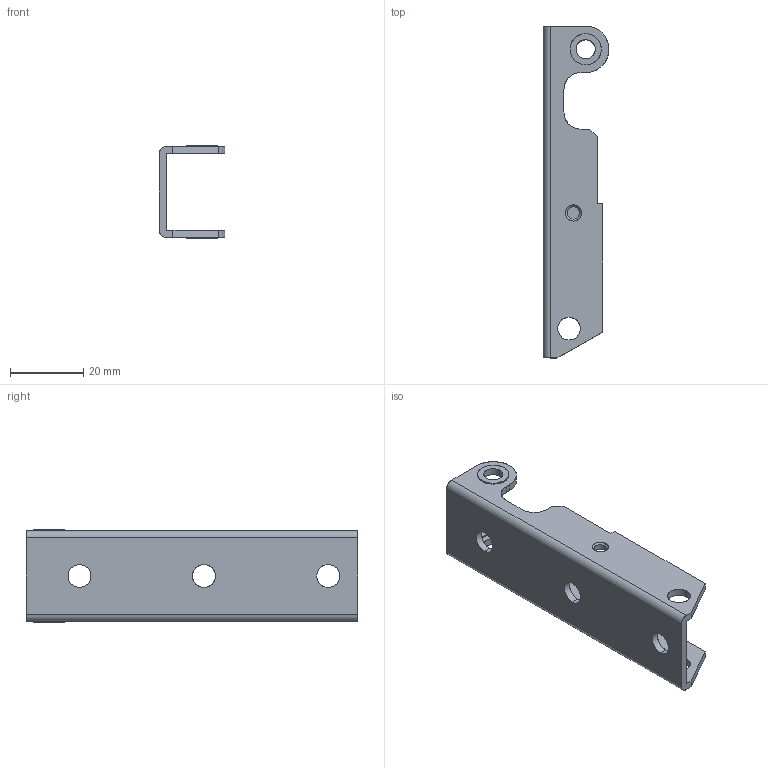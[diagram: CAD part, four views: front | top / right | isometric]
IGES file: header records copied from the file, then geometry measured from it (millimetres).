
Start section: SolidWorks IGES FILE using analytic representation for surfaces
Global section: file name: C:\Documents and Settings\lecoutey\Bureau\GP 47\48.020.10.IGS; native system: SolidWorks 2004 by SolidWorks Corporation; preprocessor: Version 5.3; author: lecoutey; date: 050329.145554; units: millimetre
Bounding box: 18 x 90.7 x 25.4 mm (x, y, z)
Surface area: 9134 mm2 (no closed solid volume)
Topology: 0 solids, 0 shells, 62 faces, 1196 edges, 1196 vertices
Faces by surface type: revolution 34, bspline 28
